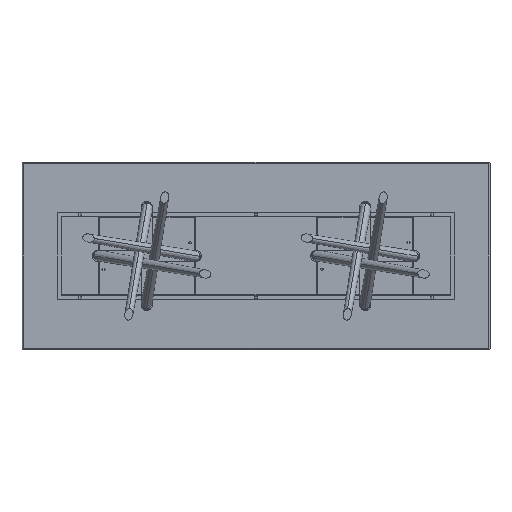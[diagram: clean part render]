
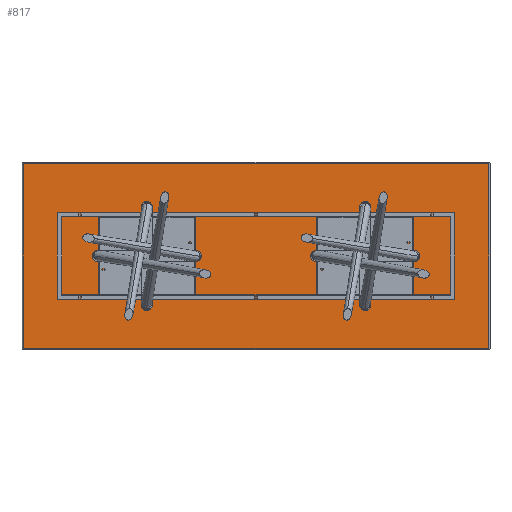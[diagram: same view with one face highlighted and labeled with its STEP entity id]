
A CAD part, front view. The second image highlights one B-rep face of the part: STEP entity #817.
In plain terms, the highlighted planar face has unit normal (0, -1, 0).
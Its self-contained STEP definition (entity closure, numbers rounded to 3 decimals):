
#179 = CARTESIAN_POINT ( 'NONE',  ( 1492., 0., 592. ) ) ;
#433 = VECTOR ( 'NONE', #7463, 1000. ) ;
#817 = ADVANCED_FACE ( 'NONE', ( #9063 ), #9196, .F. ) ;
#1240 = CARTESIAN_POINT ( 'NONE',  ( -1492., 0., 592. ) ) ;
#1617 = LINE ( 'NONE', #12617, #433 ) ;
#1808 = CARTESIAN_POINT ( 'NONE',  ( 0., 0., 0. ) ) ;
#2535 = EDGE_CURVE ( 'NONE', #6142, #10663, #12516, .T. ) ;
#2554 = CARTESIAN_POINT ( 'NONE',  ( 1492., 0., -592. ) ) ;
#2689 = ORIENTED_EDGE ( 'NONE', *, *, #5128, .T. ) ;
#3286 = VECTOR ( 'NONE', #6910, 1000. ) ;
#3380 = DIRECTION ( 'NONE',  ( 0., 0., 1. ) ) ;
#3830 = DIRECTION ( 'NONE',  ( 0., 0., -1. ) ) ;
#4239 = CARTESIAN_POINT ( 'NONE',  ( 1492., 0., 0. ) ) ;
#4608 = ORIENTED_EDGE ( 'NONE', *, *, #5807, .T. ) ;
#5128 = EDGE_CURVE ( 'NONE', #10072, #6142, #9789, .T. ) ;
#5318 = AXIS2_PLACEMENT_3D ( 'NONE', #1808, #6050, #9000 ) ;
#5807 = EDGE_CURVE ( 'NONE', #8038, #10072, #10151, .T. ) ;
#6050 = DIRECTION ( 'NONE',  ( 0., 1., 0. ) ) ;
#6142 = VERTEX_POINT ( 'NONE', #2554 ) ;
#6421 = VECTOR ( 'NONE', #3380, 1000. ) ;
#6845 = CARTESIAN_POINT ( 'NONE',  ( 0., 0., -592. ) ) ;
#6910 = DIRECTION ( 'NONE',  ( 1., 0., 0. ) ) ;
#7011 = ORIENTED_EDGE ( 'NONE', *, *, #2535, .T. ) ;
#7028 = ORIENTED_EDGE ( 'NONE', *, *, #10735, .T. ) ;
#7463 = DIRECTION ( 'NONE',  ( -1., 0., 0. ) ) ;
#7834 = EDGE_LOOP ( 'NONE', ( #7011, #7028, #4608, #2689 ) ) ;
#8038 = VERTEX_POINT ( 'NONE', #1240 ) ;
#8633 = VECTOR ( 'NONE', #3830, 1000. ) ;
#9000 = DIRECTION ( 'NONE',  ( 0., 0., 1. ) ) ;
#9063 = FACE_OUTER_BOUND ( 'NONE', #7834, .T. ) ;
#9196 = PLANE ( 'NONE',  #5318 ) ;
#9789 = LINE ( 'NONE', #6845, #3286 ) ;
#10072 = VERTEX_POINT ( 'NONE', #12251 ) ;
#10151 = LINE ( 'NONE', #11961, #8633 ) ;
#10663 = VERTEX_POINT ( 'NONE', #179 ) ;
#10735 = EDGE_CURVE ( 'NONE', #10663, #8038, #1617, .T. ) ;
#11961 = CARTESIAN_POINT ( 'NONE',  ( -1492., 0., 0. ) ) ;
#12251 = CARTESIAN_POINT ( 'NONE',  ( -1492., 0., -592. ) ) ;
#12516 = LINE ( 'NONE', #4239, #6421 ) ;
#12617 = CARTESIAN_POINT ( 'NONE',  ( 0., 0., 592. ) ) ;
